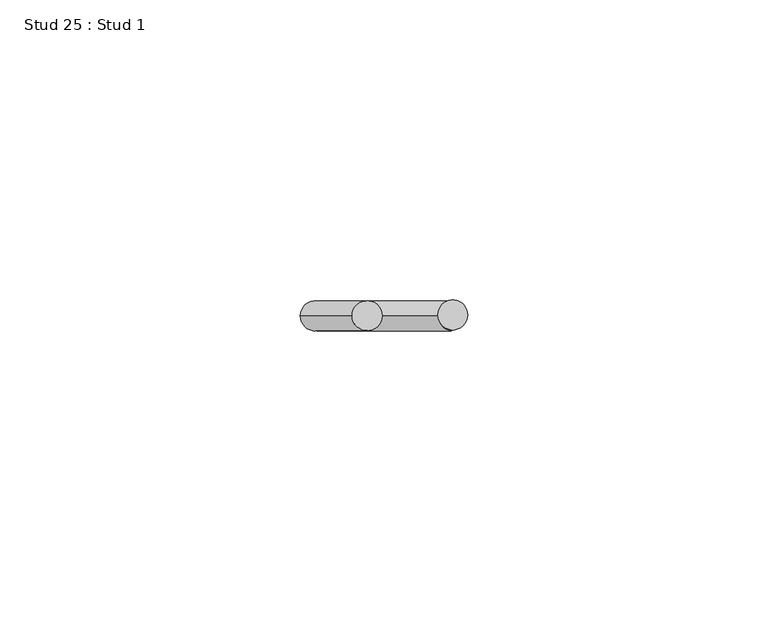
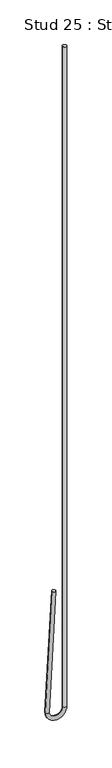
"""IFC4 building model written with IfcOpenShell, lengths in millimetres: proxy geometry, Stud 25 : Stud 1."""

from ifc_helpers import new_model, si_unit, point, frame, origin, place, context, project, spatial, circle_curve, ellipse_curve, trimmed, source, transform, mapped, element, save
from ifc_brep_helpers import plane_surface, cylinder_surface, revolved_surface, advanced_brep


def stud_25_stud_1_9dbdf446(model_context):
    return source(origin(), model_context, "Body", "AdvancedBrep", [
        advanced_brep(
        [(-13440.3532788, 5867.5191481, 3640.800192), (-13435.3601311, 5867.5191481, 3640.5385122), (-13448.9939451, 5867.5191481, 3475.9264558), (-13444.0007975, 5867.5191481, 3475.664776), (-13426.0920812, 5867.5191481, 3475.7956159), (-13421.0920812, 5867.5191481, 3475.7956159), (-13421.0920812, 5867.5191481, 4390.1956159), (-13426.0920812, 5867.5191481, 4390.1956159)],
        [
            (0, 1, circle_curve(frame((-13437.8567049, 5867.5191481, 3640.6693521), z_axis=(0.05233595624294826, 0.0, 0.9986295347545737), x_axis=(0.9986295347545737, 0.0, -0.05233595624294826)), 2.5)),
            (1, 0, circle_curve(frame((-13437.8567049, 5867.5191481, 3640.6693521), z_axis=(0.05233595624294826, 0.0, 0.9986295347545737), x_axis=(0.9986295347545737, 0.0, -0.05233595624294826)), 2.5)),
            (0, 2),
            (2, 3, circle_curve(frame((-13446.4973713, 5867.5191481, 3475.7956159), z_axis=(0.05233595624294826, 0.0, 0.9986295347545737), x_axis=(0.9986295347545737, 0.0, -0.05233595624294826)), 2.5)),
            (3, 1),
            (3, 2, circle_curve(frame((-13446.4973713, 5867.5191481, 3475.7956159), z_axis=(0.05233595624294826, 0.0, 0.9986295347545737), x_axis=(0.9986295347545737, 0.0, -0.05233595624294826)), 2.5)),
            (4, 3, circle_curve(frame((-13435.0447263, 5867.5191481, 3475.7956159), z_axis=(0.0, 1.0, 0.0), x_axis=(-1.0, 0.0, 0.0)), 8.952645)),
            (2, 5, circle_curve(frame((-13435.0447263, 5867.5191481, 3475.7956159), z_axis=(0.0, -1.0, 0.0), x_axis=(-1.0, 0.0, 0.0)), 13.952645)),
            (5, 4, circle_curve(frame((-13423.5920812, 5867.5191481, 3475.7956159), z_axis=(0.0, 0.0, -1.0), x_axis=(-1.0, 0.0, 0.0)), 2.5)),
            (4, 5, circle_curve(frame((-13423.5920812, 5867.5191481, 3475.7956159), z_axis=(0.0, 0.0, -1.0), x_axis=(-1.0, 0.0, 0.0)), 2.5)),
            (6, 7, circle_curve(frame((-13423.5920812, 5867.5191481, 4390.1956159), z_axis=(0.0, 0.0, 1.0), x_axis=(-1.0, 0.0, 0.0)), 2.5)),
            (7, 6, circle_curve(frame((-13423.5920812, 5867.5191481, 4390.1956159), z_axis=(0.0, 0.0, 1.0), x_axis=(-1.0, 0.0, 0.0)), 2.5)),
            (5, 6),
            (7, 4),
        ],
        [
            plane_surface(frame((-13437.8567049, 6461.2441481, 3640.6693521), z_axis=(0.05233595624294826, 0.0, 0.9986295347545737), x_axis=(0.0, -1.0, 0.0))),
            cylinder_surface(frame((-13437.8567049, 5867.5191481, 3640.6693521), z_axis=(0.05233595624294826, 0.0, 0.9986295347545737), x_axis=(0.9986295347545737, 0.0, -0.05233595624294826)), 2.5),
            revolved_surface(trimmed(ellipse_curve(frame((-13446.4973713, 5867.5191481, 3475.7956159), z_axis=(0.0, 0.0, 1.0), x_axis=(1.0, 0.0, 0.0)), 2.5, 2.5), [point((-13448.9973713, 5867.5191481, 3475.7956159))], [point((-13443.9973713, 5867.5191481, 3475.7956159))], True, "CARTESIAN"), (-13435.0447263, 6461.2441481, 3475.7956159), (0.0, -1.0, 0.0)),
            revolved_surface(trimmed(ellipse_curve(frame((-13446.4973713, 5867.5191481, 3475.7956159), z_axis=(0.0, 0.0, 1.0), x_axis=(1.0, 0.0, 0.0)), 2.5, 2.5), [point((-13443.9973713, 5867.5191481, 3475.7956159))], [point((-13448.9973713, 5867.5191481, 3475.7956159))], True, "CARTESIAN"), (-13435.0447263, 6461.2441481, 3475.7956159), (0.0, -1.0, 0.0)),
            plane_surface(frame((-13423.5920812, 6461.2441481, 4390.1956159), z_axis=(0.0, 0.0, 1.0), x_axis=(0.0, -1.0, 0.0))),
            cylinder_surface(frame((-13423.5920812, 5867.5191481, 3475.7956159), z_axis=(0.0, 0.0, -1.0), x_axis=(-1.0, 0.0, 0.0)), 2.5),
        ],
        [
            (0, [[1, 2]]),
            (1, [[-1, 3, 4, 5]]),
            (1, [[-2, -5, 6, -3]]),
            (2, [[7, -4, 8, 9]]),
            (3, [[-8, -6, -7, 10]]),
            (4, [[11, 12]]),
            (5, [[-9, 13, -12, 14]]),
            (5, [[-10, -14, -11, -13]]),
        ],
    ),
    ])


if __name__ == "__main__":
    model = new_model("IFC4")
    model_context = context("Model", 3, world=origin())
    ifc_project = project(units=[si_unit("LENGTHUNIT", "METRE", prefix="MILLI")], contexts=[model_context])
    site = spatial("IfcSite", under=ifc_project)
    building = spatial("IfcBuilding", under=site)
    placement = place(None, origin())
    stud_25_stud_1_shape = stud_25_stud_1_9dbdf446(model_context)
    element("IfcBuildingElementProxy", 1, Name="Stud 25 : Stud 1", ObjectType="Stud 25 : Stud 1", at=placement, inside=building, context=model_context, shape_type="MappedRepresentation", body=[
        mapped(stud_25_stud_1_shape, transform((0.0, 0.0, 0.0), x_axis=(1.0, 0.0, 0.0), y_axis=(0.0, 1.0, 0.0), z_axis=(0.0, 0.0, 1.0))),
    ])
    save(model, "model.ifc")
